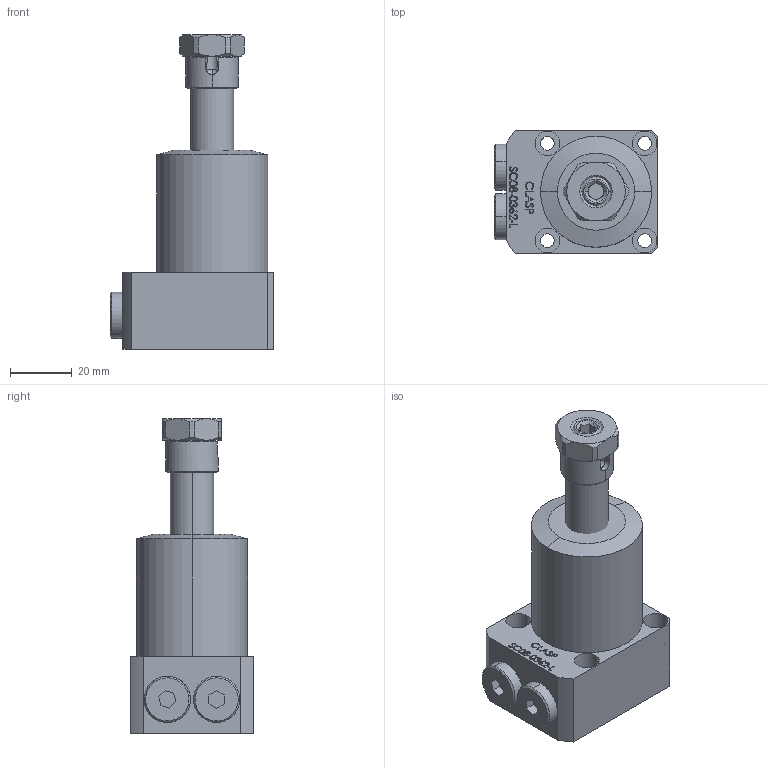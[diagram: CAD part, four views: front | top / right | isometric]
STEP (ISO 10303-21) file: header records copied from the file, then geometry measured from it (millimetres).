
FILE_DESCRIPTION (( 'STEP AP203' ), '1' );
FILE_NAME ('SC08-0362-L.STEP', '2022-07-08T17:15:51', ( '' ), ( '' ), 'SwSTEP 2.0', 'SolidWorks 2017', '' );
FILE_SCHEMA (( 'CONFIG_CONTROL_DESIGN' ));
Length unit declared in the file: millimetre
Products named in the file (6): SC-08-0362-L-Piston; SC-08-0362-L-05 plug; SC-08-0362-L-04 sleeve; SC-08-0362-L-03-nut; SC08-0362-L; SC-08-0362-L BODY
Assembly tree (6 placements, depth 2):
  SC08-0362-L
    SC-08-0362-L BODY
    SC-08-0362-L-Piston
    SC-08-0362-L-05 plug  x2
    SC-08-0362-L-04 sleeve
    SC-08-0362-L-03-nut
Bounding box: 53 x 40 x 102 mm (x, y, z)
Volume: 98897.9 mm3; surface area: 22781.9 mm2
Topology: 6 solids, 6 shells, 374 faces, 920 edges, 599 vertices
Faces by surface type: plane 151, bspline 118, cylinder 62, cone 41, sphere 2
Entity records: 18058 total; most frequent: CARTESIAN_POINT 9609, ORIENTED_EDGE 1776, DIRECTION 1270, EDGE_CURVE 888, VERTEX_POINT 579, VECTOR 442, LINE 442, AXIS2_PLACEMENT_3D 414
